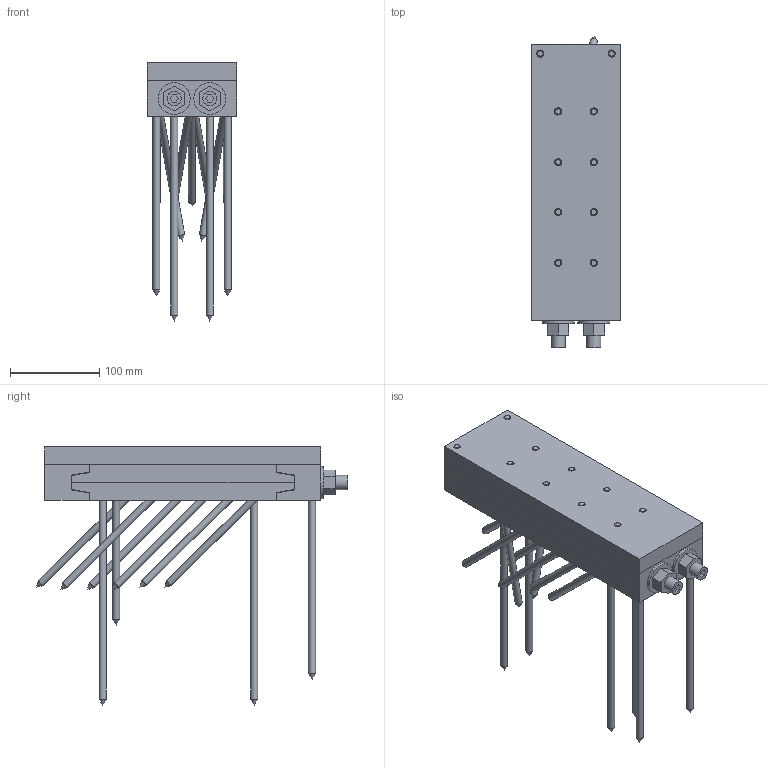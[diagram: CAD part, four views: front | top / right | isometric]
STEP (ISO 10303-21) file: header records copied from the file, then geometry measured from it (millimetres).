
FILE_DESCRIPTION(/* description */ ('Unknown'),/* implementation_level */ '2;1');
FILE_NAME(/* name */ 'MEGANT_310x100x40_Holz-Stahlanschluss_Sichtbar',/* time_stamp */ '2022-02-22T12:20:42+01:00',/* author */ ('Unknown'),/* organization */ ('Unknown'),/* preprocessor_version */ 'ST-DEVELOPER v16.7',/* originating_system */ 'Solid Edge',/* authorisation */ 'Unknown');
FILE_SCHEMA (('AUTOMOTIVE_DESIGN {1 0 10303 214 3 1 1}'));
Length unit declared in the file: millimetre
Products named in the file (18): MEGANT_310x100x40_Holz-Stahlanschluss_Sichtbar; Verbinderplatte_250x100x20_NT; Verbinderplatte_250x100x20; SK_Schraube_8x240; SK_Schraube_8x160; Verbinderplatte_250x100x20_HT_Stahlanschluss_8xSKM8x30; Verbinderplatte_250x100x20_Stahlanschluss_8xM8x30; SK_M8x30; Spannbacke_oben_100x50x40_NT; Spannbacke_oben_100x50x40; Spannbacke_unten_100x50x40_HT_2xSKM8x60; Spannbacke_unten_100x50x40; SK_M8x60; Stahlplatte_310x100x20_8xSKM8x25_2xM8x60; Gewindestange_M16_L340; Beilagscheibe_M16; Mutter_M16
Assembly tree (41 placements, depth 3):
  MEGANT_310x100x40_Holz-Stahlanschluss_Sichtbar
    Verbinderplatte_250x100x20_NT
      Verbinderplatte_250x100x20
      SK_Schraube_8x240  x4
      SK_Schraube_8x160  x11
    Verbinderplatte_250x100x20_HT_Stahlanschluss_8xSKM8x30
      Verbinderplatte_250x100x20_Stahlanschluss_8xM8x30
      SK_M8x30  x8
    Spannbacke_oben_100x50x40_NT
      Spannbacke_oben_100x50x40
      SK_Schraube_8x240  x2
    Spannbacke_unten_100x50x40_HT_2xSKM8x60
      Spannbacke_unten_100x50x40
      SK_M8x60  x2
    Stahlplatte_310x100x20_8xSKM8x25_2xM8x60
    Gewindestange_M16_L340  x2
      Gewindestange_M16_L340
      Beilagscheibe_M16
      Mutter_M16
Bounding box: 100 x 349.49 x 290.1 mm (x, y, z)
Volume: 1926273.8 mm3; surface area: 434403.8 mm2
Topology: 38 solids, 38 shells, 487 faces, 1159 edges, 743 vertices
Faces by surface type: plane 223, cylinder 172, cone 92
Full cylindrical faces by diameter (mm): 6.647 x20, 8 x27, 8.3 x2, 8.5 x38, 13.835 x2, 14 x4, 15 x55, 16 x10, 17 x4, 36 x2
Entity records: 10169 total; most frequent: DIRECTION 1662, CARTESIAN_POINT 1555, ORIENTED_EDGE 1320, EDGE_CURVE 660, AXIS2_PLACEMENT_3D 621, FACE_BOUND 616, EDGE_LOOP 614, VERTEX_POINT 514
